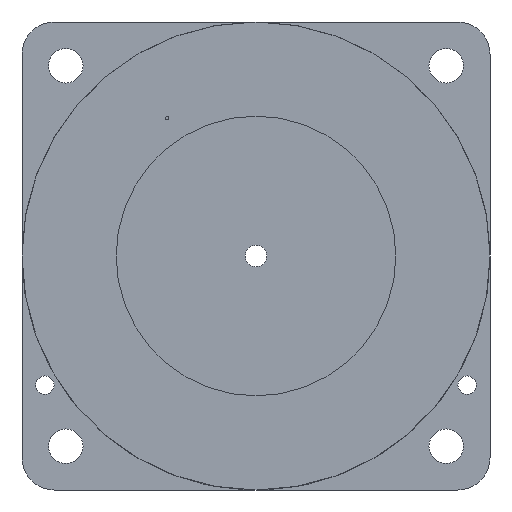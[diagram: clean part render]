
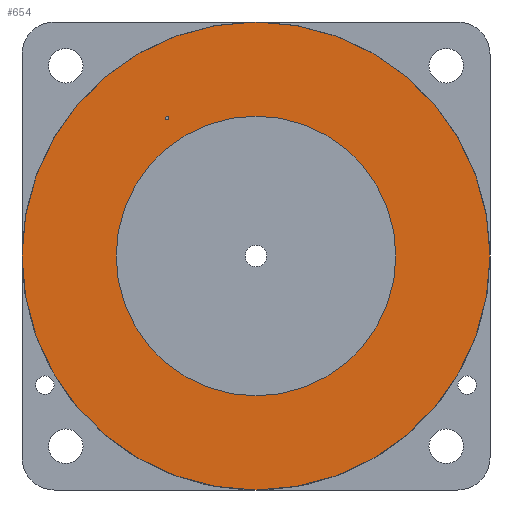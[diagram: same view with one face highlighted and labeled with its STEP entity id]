
A CAD part, front view. The second image highlights one B-rep face of the part: STEP entity #654.
In plain terms, the highlighted planar face has unit normal (0, -1, 0).
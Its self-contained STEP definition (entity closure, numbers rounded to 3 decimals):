
#170=CARTESIAN_POINT('',(-41.036,2.333,47.238));
#171=DIRECTION('',(0.,-1.,0.));
#172=DIRECTION('',(0.,0.,1.));
#173=AXIS2_PLACEMENT_3D('',#170,#171,#172);
#175=CARTESIAN_POINT('',(-41.036,2.333,47.238));
#176=DIRECTION('',(0.,-1.,0.));
#177=DIRECTION('',(0.,0.,-1.));
#178=AXIS2_PLACEMENT_3D('',#175,#176,#177);
#180=CARTESIAN_POINT('',(-49.302,2.333,60.05));
#181=DIRECTION('',(0.,1.,0.));
#182=DIRECTION('',(0.,0.,-1.));
#183=AXIS2_PLACEMENT_3D('',#180,#181,#182);
#185=CARTESIAN_POINT('',(-49.302,2.333,60.05));
#186=DIRECTION('',(0.,1.,0.));
#187=DIRECTION('',(0.,0.,1.));
#188=AXIS2_PLACEMENT_3D('',#185,#186,#187);
#190=CARTESIAN_POINT('',(-41.036,2.333,47.238));
#191=DIRECTION('',(0.,1.,0.));
#192=DIRECTION('',(0.,0.,-1.));
#193=AXIS2_PLACEMENT_3D('',#190,#191,#192);
#195=CARTESIAN_POINT('',(-41.036,2.333,47.238));
#196=DIRECTION('',(0.,1.,0.));
#197=DIRECTION('',(0.,0.,1.));
#198=AXIS2_PLACEMENT_3D('',#195,#196,#197);
#370=CARTESIAN_POINT('',(-41.036,2.333,68.988));
#371=CARTESIAN_POINT('',(-41.036,2.333,25.488));
#372=VERTEX_POINT('',#370);
#373=VERTEX_POINT('',#371);
#388=CARTESIAN_POINT('',(-49.302,2.333,59.9));
#390=VERTEX_POINT('',#388);
#408=CARTESIAN_POINT('',(-41.036,2.333,60.238));
#409=CARTESIAN_POINT('',(-41.036,2.333,34.238));
#410=VERTEX_POINT('',#408);
#411=VERTEX_POINT('',#409);
#416=CARTESIAN_POINT('',(-49.302,2.333,60.2));
#417=VERTEX_POINT('',#416);
#633=CARTESIAN_POINT('',(-41.036,2.333,47.238));
#634=DIRECTION('',(0.,-1.,0.));
#635=DIRECTION('',(0.,0.,-1.));
#636=AXIS2_PLACEMENT_3D('',#633,#634,#635);
#637=PLANE('',#636);
#639=ORIENTED_EDGE('',*,*,#638,.F.);
#641=ORIENTED_EDGE('',*,*,#640,.F.);
#642=EDGE_LOOP('',(#639,#641));
#643=FACE_OUTER_BOUND('',#642,.F.);
#644=ORIENTED_EDGE('',*,*,#627,.F.);
#645=ORIENTED_EDGE('',*,*,#612,.F.);
#646=EDGE_LOOP('',(#644,#645));
#647=FACE_BOUND('',#646,.F.);
#649=ORIENTED_EDGE('',*,*,#648,.F.);
#651=ORIENTED_EDGE('',*,*,#650,.F.);
#652=EDGE_LOOP('',(#649,#651));
#653=FACE_BOUND('',#652,.F.);
#174=CIRCLE('',#173,21.75);
#179=CIRCLE('',#178,21.75);
#184=CIRCLE('',#183,0.15);
#189=CIRCLE('',#188,0.15);
#194=CIRCLE('',#193,13.);
#199=CIRCLE('',#198,13.);
#612=EDGE_CURVE('',#417,#390,#189,.T.);
#627=EDGE_CURVE('',#390,#417,#184,.T.);
#638=EDGE_CURVE('',#372,#373,#174,.T.);
#640=EDGE_CURVE('',#373,#372,#179,.T.);
#648=EDGE_CURVE('',#411,#410,#194,.T.);
#650=EDGE_CURVE('',#410,#411,#199,.T.);
#654=ADVANCED_FACE('',(#643,#647,#653),#637,.T.);
